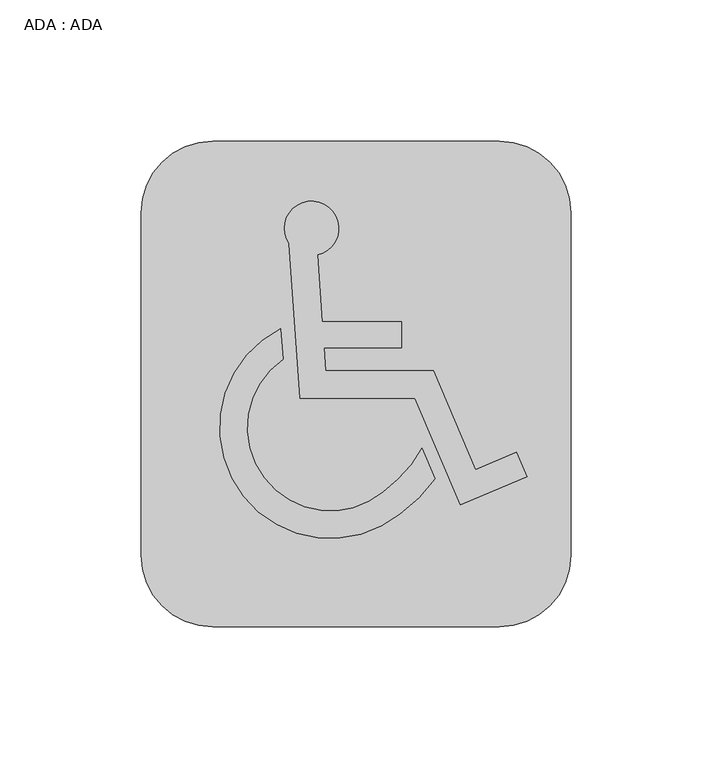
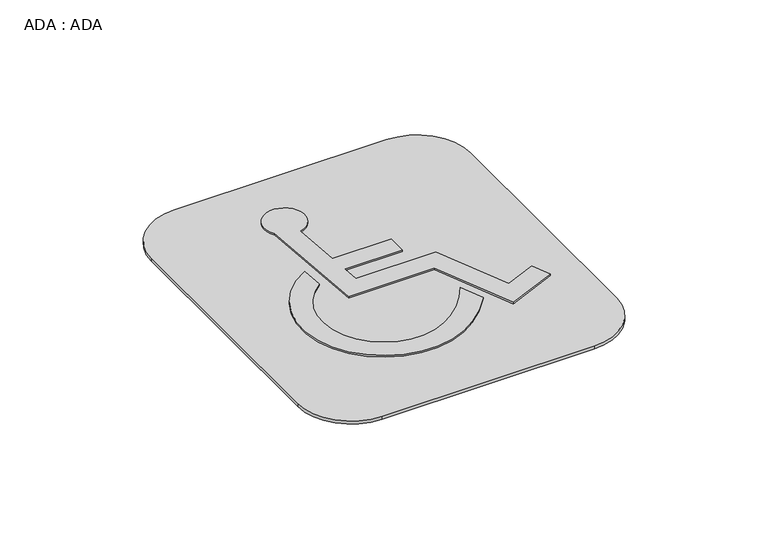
"""IFC4 building model written with IfcOpenShell, lengths in millimetres: proxy geometry, ADA : ADA."""

from ifc_helpers import new_model, si_unit, point, frame, frame_2d, origin, origin_with_axes, place, context, project, spatial, polyline, circle_curve, trimmed, segment, composite_curve, outline, extrude, source, transform, mapped, element, save


def ada_ada_27e19ec1(model_context):
    return source(origin(), model_context, "Body", "SweptSolid", [
        extrude(outline(composite_curve([segment(trimmed(circle_curve(frame_2d((-15.7437268, 375.5179816)), 9.6506168), [point((-23.6736146, 370.0178649))], [point((-13.6507589, 366.0970533))], False, "CARTESIAN"), True, "CONTINUOUS"), segment(polyline([(-13.6507589, 366.0970533), (-11.988956, 342.3321655), (16.0668894, 342.3321655), (16.0668894, 333.2150356), (-11.3514242, 333.2150356), (-10.7767303, 324.9965304), (27.4354933, 324.9965304), (42.2691085, 290.0507228), (56.8379627, 296.2348345), (60.5284937, 287.5404883), (37.0077864, 277.5565404), (20.9986968, 315.2715918), (-19.8453823, 315.2715918), (-23.6736146, 370.0178649)]), True, "CONTINUOUS")], self_intersect=False)), frame((0.0, 0.0, 1.5875), z_axis=(0.0, 0.0, 1.0), x_axis=(1.0, 0.0, 0.0)), (0.0, 0.0, 1.0), 0.79375),
        extrude(outline(composite_curve([segment(trimmed(circle_curve(frame_2d((-9.0419249, 304.8975447)), 39.2355931), [point((15.5104048, 274.2933803))], [point((-26.6546855, 339.9578132))], False, "CARTESIAN"), True, "CONTINUOUS"), segment(polyline([(-26.6546855, 339.9578132), (-25.8969192, 329.12125)]), True, "CONTINUOUS"), segment(trimmed(circle_curve(frame_2d((-9.0419249, 304.8975447)), 29.5106545), [point((-25.8969192, 329.12125))], [point((9.6054876, 282.0250122))], True, "CARTESIAN"), True, "CONTINUOUS"), segment(trimmed(circle_curve(frame_2d((-17.4018495, 319.7000421)), 46.3551953), [point((9.6054876, 282.0250122))], [point((23.3848665, 297.6716982))], True, "CARTESIAN"), True, "CONTINUOUS"), segment(polyline([(23.3848665, 297.6716982), (28.0048123, 286.7877878)]), True, "CONTINUOUS"), segment(trimmed(circle_curve(frame_2d((-17.4018495, 319.7000421)), 56.0801339), [point((28.0048123, 286.7877878))], [point((15.5104048, 274.2933803))], False, "CARTESIAN"), True, "CONTINUOUS")], self_intersect=False)), frame((0.0, 0.0, 1.5875), z_axis=(0.0, 0.0, 1.0), x_axis=(1.0, 0.0, 0.0)), (0.0, 0.0, 1.0), 0.79375),
        extrude(outline(composite_curve([segment(trimmed(circle_curve(frame_2d((50.8, 381.0)), 25.4), [point((50.8, 406.4))], [point((76.2, 381.0))], False, "CARTESIAN"), True, "CONTINUOUS"), segment(polyline([(76.2, 381.0), (76.2, 259.7090918)]), True, "CONTINUOUS"), segment(trimmed(circle_curve(frame_2d((50.8, 259.7090918)), 25.4), [point((76.2, 259.7090918))], [point((50.8, 234.3090918))], False, "CARTESIAN"), True, "CONTINUOUS"), segment(polyline([(50.8, 234.3090918), (-50.8, 234.3090918)]), True, "CONTINUOUS"), segment(trimmed(circle_curve(frame_2d((-50.8, 259.7090918)), 25.4), [point((-50.8, 234.3090918))], [point((-76.2, 259.7090918))], False, "CARTESIAN"), True, "CONTINUOUS"), segment(polyline([(-76.2, 259.7090918), (-76.2, 381.0)]), True, "CONTINUOUS"), segment(trimmed(circle_curve(frame_2d((-50.8, 381.0)), 25.4), [point((-76.2, 381.0))], [point((-50.8, 406.4))], False, "CARTESIAN"), True, "CONTINUOUS"), segment(polyline([(-50.8, 406.4), (50.8, 406.4)]), True, "CONTINUOUS")], self_intersect=False)), origin_with_axes(), (0.0, 0.0, 1.0), 1.5875),
    ])


if __name__ == "__main__":
    model = new_model("IFC4")
    model_context = context("Model", 3, world=origin())
    ifc_project = project(units=[si_unit("LENGTHUNIT", "METRE", prefix="MILLI")], contexts=[model_context])
    site = spatial("IfcSite", under=ifc_project)
    building = spatial("IfcBuilding", under=site)
    placement = place(None, origin())
    ada_ada_shape = ada_ada_27e19ec1(model_context)
    element("IfcBuildingElementProxy", 1, Name="ADA : ADA", ObjectType="ADA : ADA", at=placement, inside=building, context=model_context, shape_type="MappedRepresentation", body=[
        mapped(ada_ada_shape, transform((0.0, 0.0, 0.0), x_axis=(1.0, 0.0, 0.0), y_axis=(0.0, 1.0, 0.0), z_axis=(0.0, 0.0, 1.0))),
    ])
    save(model, "model.ifc")
